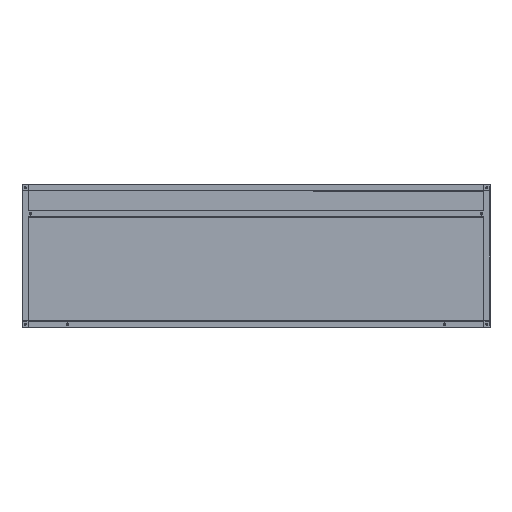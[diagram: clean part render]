
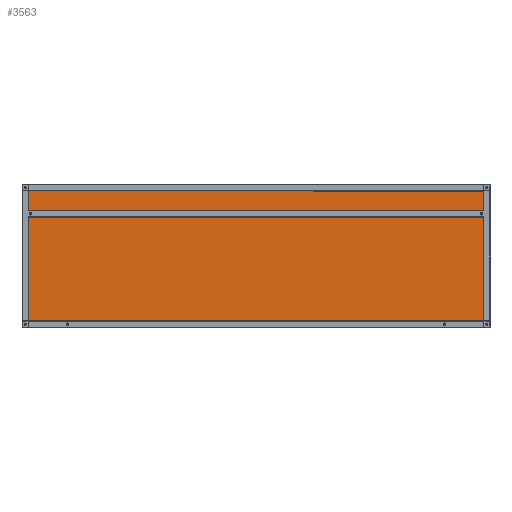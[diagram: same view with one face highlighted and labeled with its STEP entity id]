
A CAD part, front view. The second image highlights one B-rep face of the part: STEP entity #3563.
In plain terms, the highlighted planar face has unit normal (0, -1, 0) as drawn and (0, 0, -1) by its records, which use the part's own axes.
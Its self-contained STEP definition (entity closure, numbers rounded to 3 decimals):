
#7 = CARTESIAN_POINT ( 'NONE',  ( 25., -250., 0. ) ) ;
#397 = PLANE ( 'NONE',  #822 ) ;
#809 = CARTESIAN_POINT ( 'NONE',  ( 0., 0., 0. ) ) ;
#822 = AXIS2_PLACEMENT_3D ( 'NONE', #809, #1855, #5006 ) ;
#879 = ORIENTED_EDGE ( 'NONE', *, *, #3192, .F. ) ;
#995 = ORIENTED_EDGE ( 'NONE', *, *, #5932, .F. ) ;
#1082 = DIRECTION ( 'NONE',  ( 0., -1., 0. ) ) ;
#1085 = LINE ( 'NONE', #2700, #6406 ) ;
#1222 = VECTOR ( 'NONE', #2690, 1000. ) ;
#1495 = ORIENTED_EDGE ( 'NONE', *, *, #2097, .F. ) ;
#1723 = CARTESIAN_POINT ( 'NONE',  ( 1775., 275., 0. ) ) ;
#1855 = DIRECTION ( 'NONE',  ( 0., 0., 1. ) ) ;
#1908 = ORIENTED_EDGE ( 'NONE', *, *, #5306, .F. ) ;
#2076 = LINE ( 'NONE', #5153, #6064 ) ;
#2097 = EDGE_CURVE ( 'NONE', #5835, #6462, #1085, .T. ) ;
#2313 = CARTESIAN_POINT ( 'NONE',  ( 25., 275., 0. ) ) ;
#2690 = DIRECTION ( 'NONE',  ( 0., 1., 0. ) ) ;
#2700 = CARTESIAN_POINT ( 'NONE',  ( 25., -250., 0. ) ) ;
#3173 = DIRECTION ( 'NONE',  ( 1., 0., 0. ) ) ;
#3192 = EDGE_CURVE ( 'NONE', #6428, #5575, #4162, .T. ) ;
#3284 = CARTESIAN_POINT ( 'NONE',  ( 1775., 275., 0. ) ) ;
#3508 = EDGE_LOOP ( 'NONE', ( #1908, #879, #995, #1495 ) ) ;
#3563 = ADVANCED_FACE ( 'NONE', ( #5113 ), #397, .F. ) ;
#4106 = CARTESIAN_POINT ( 'NONE',  ( 25., 275., 0. ) ) ;
#4136 = DIRECTION ( 'NONE',  ( -1., 0., 0. ) ) ;
#4162 = LINE ( 'NONE', #4106, #6634 ) ;
#4225 = CARTESIAN_POINT ( 'NONE',  ( 1775., -250., 0. ) ) ;
#5006 = DIRECTION ( 'NONE',  ( 1., 0., 0. ) ) ;
#5113 = FACE_OUTER_BOUND ( 'NONE', #3508, .T. ) ;
#5153 = CARTESIAN_POINT ( 'NONE',  ( 25., 275., 0. ) ) ;
#5306 = EDGE_CURVE ( 'NONE', #5575, #5835, #2076, .T. ) ;
#5575 = VERTEX_POINT ( 'NONE', #2313 ) ;
#5835 = VERTEX_POINT ( 'NONE', #7 ) ;
#5932 = EDGE_CURVE ( 'NONE', #6462, #6428, #6414, .T. ) ;
#6064 = VECTOR ( 'NONE', #1082, 1000. ) ;
#6406 = VECTOR ( 'NONE', #3173, 1000. ) ;
#6414 = LINE ( 'NONE', #1723, #1222 ) ;
#6428 = VERTEX_POINT ( 'NONE', #3284 ) ;
#6462 = VERTEX_POINT ( 'NONE', #4225 ) ;
#6634 = VECTOR ( 'NONE', #4136, 1000. ) ;
